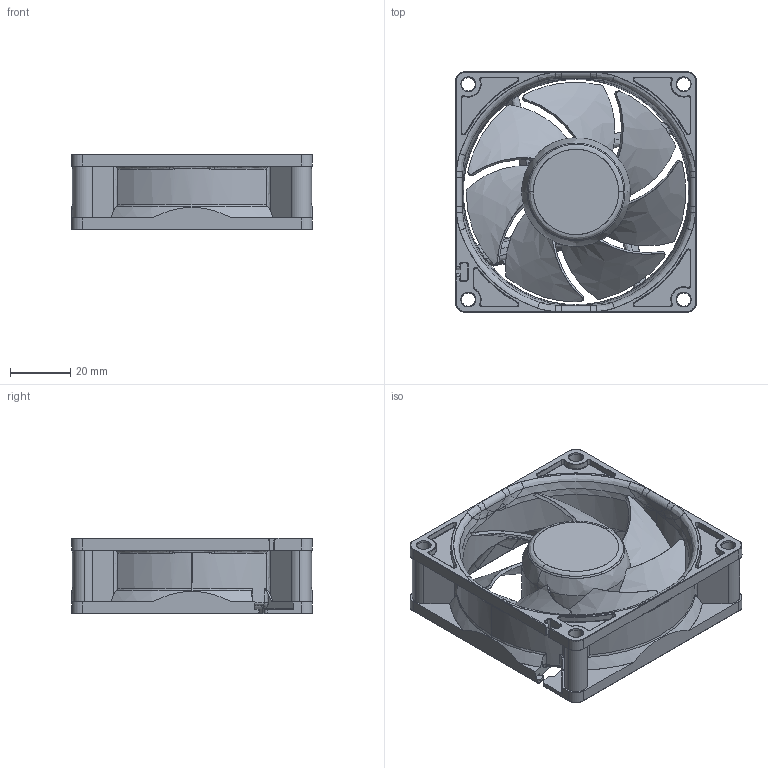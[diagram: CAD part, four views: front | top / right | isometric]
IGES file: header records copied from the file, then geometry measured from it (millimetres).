
Start section: SolidWorks IGES file using analytic representation for surfaces
Global section: file name: C:\Users\yanagisawa-atsushi\Desktop\CAD_DATA\Frame_3D-CAD\80妏25岤GA僞僀僾\8025GA RIBBED.IGS; native system: SolidWorks 2016; preprocessor: SolidWorks 2016; author: Yanagisawa-Atsushi; date: 170130.110233; units: millimetre
Bounding box: 80 x 80 x 25.2 mm (x, y, z)
Surface area: 34850.2 mm2 (no closed solid volume)
Topology: 0 solids, 0 shells, 736 faces, 6280 edges, 6246 vertices
Faces by surface type: bspline 459, revolution 277
